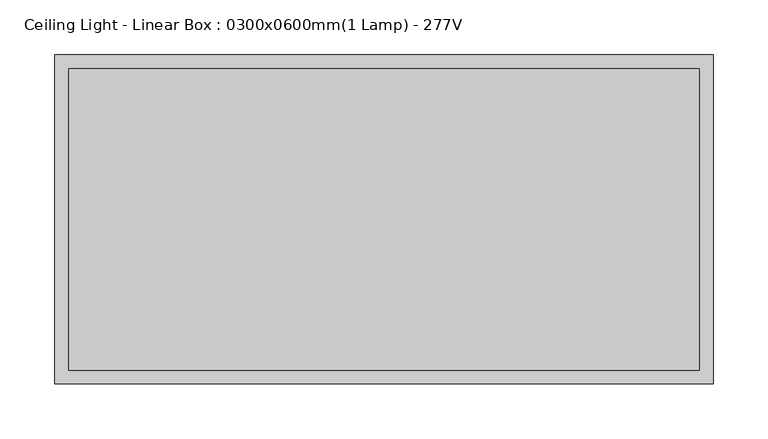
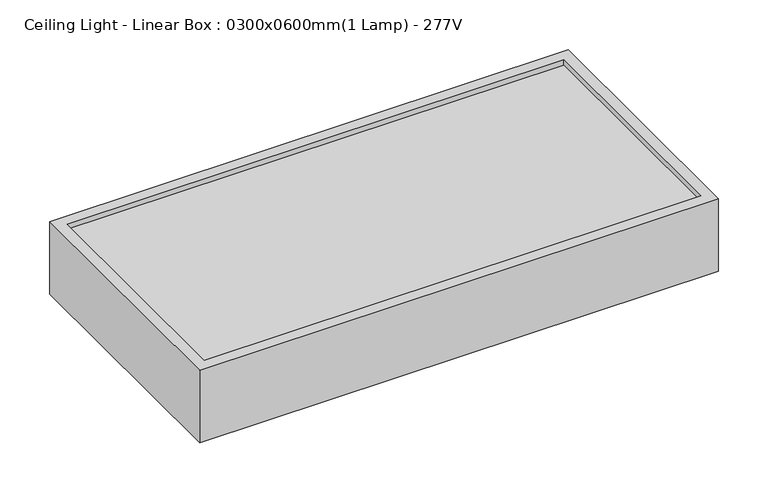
"""IFC4 building model written with IfcOpenShell, lengths in millimetres: light fixture geometry, Ceiling Light - Linear Box : 0300x0600mm(1 Lamp) - 277V."""

import ifcopenshell
import ifcopenshell.guid

model = None  # the IFC model being written
_history = None  # IfcOwnerHistory: only IFC2X3 demands one
_inside = {}  # id of a spatial element -> (the spatial element, [elements in it])
_under = {}  # id of a project, library or spatial element -> (it, [spatial elements below it])
_declared = {}  # id of a project -> (the project, [libraries it declares])
_typed = {}  # id of a type object -> (the type object, [elements of that type])
_made_of = {}  # id of a material, layer set ... -> (it, [elements and type objects made of it])


def new_model(schema):
    """Start an empty IFC model of exactly this schema.

    Asked for "IFC4X3", IfcOpenShell would pick the latest addendum, in which some entities
    have other attributes; the version numbers below select the first issue.
    IFC2X3 requires an IfcOwnerHistory on every rooted entity: one is made here for all.
    """
    global model, _history
    if schema == "IFC4X3":
        model = ifcopenshell.file(schema_version=(4, 3, 0, 0))
    else:
        model = ifcopenshell.file(schema=schema)
    _inside.clear()
    _under.clear()
    _declared.clear()
    _typed.clear()
    _made_of.clear()
    _history = None
    if model.schema == "IFC2X3":
        org = make("IfcOrganization", Name="unknown")
        user = make(
            "IfcPersonAndOrganization",
            ThePerson=make("IfcPerson", FamilyName="unknown"),
            TheOrganization=org,
        )
        app = make(
            "IfcApplication",
            ApplicationDeveloper=org,
            Version="unknown",
            ApplicationFullName="unknown",
            ApplicationIdentifier="unknown",
        )
        _history = make(
            "IfcOwnerHistory",
            OwningUser=user,
            OwningApplication=app,
            ChangeAction="ADDED",
            CreationDate=0,
        )
    return model


def make(cls, **values):
    """One entity of the class cls with the attributes given. An attribute that is None is left unset."""
    return model.create_entity(
        cls, **{name: value for name, value in values.items() if value is not None}
    )


def rooted(cls, **values):
    """An entity with a GlobalId (a new one), such as an element, a storey or a relation."""
    return make(cls, GlobalId=ifcopenshell.guid.new(), OwnerHistory=_history, **values)


def si_unit(unit_type, name, prefix=None):
    """IfcSIUnit, for example si_unit("LENGTHUNIT", "METRE", prefix="MILLI")."""
    return make("IfcSIUnit", UnitType=unit_type, Prefix=prefix, Name=name)


def assignment(units):
    """IfcUnitAssignment: the units of a project."""
    return None if units is None else make("IfcUnitAssignment", Units=units)


def point(xyz):
    """IfcCartesianPoint."""
    return None if xyz is None else make("IfcCartesianPoint", Coordinates=xyz)


def direction(xyz):
    """IfcDirection."""
    return None if xyz is None else make("IfcDirection", DirectionRatios=xyz)


def frame(location, z_axis=None, x_axis=None):
    """IfcAxis2Placement3D, a coordinate frame: its origin and axes. An axis left out is left unset."""
    return make(
        "IfcAxis2Placement3D",
        Location=point(location),
        Axis=direction(z_axis),
        RefDirection=direction(x_axis),
    )


def origin():
    """The frame at (0, 0, 0) with its axes left unset."""
    return frame((0.0, 0.0, 0.0))


def origin_with_axes():
    """The frame at (0, 0, 0) with the z axis (0, 0, 1) and the x axis (1, 0, 0) written out."""
    return frame((0.0, 0.0, 0.0), z_axis=(0.0, 0.0, 1.0), x_axis=(1.0, 0.0, 0.0))


def place(relative_to, where):
    """IfcLocalPlacement: puts the frame where relative to a parent placement (None: the world)."""
    return make(
        "IfcLocalPlacement", PlacementRelTo=relative_to, RelativePlacement=where
    )


def context(
    kind, dimensions, precision=None, world=None, true_north=None, identifier=None
):
    """IfcGeometricRepresentationContext, for example the 3D "Model" context."""
    return make(
        "IfcGeometricRepresentationContext",
        ContextIdentifier=identifier,
        ContextType=kind,
        CoordinateSpaceDimension=dimensions,
        Precision=precision,
        WorldCoordinateSystem=world,
        TrueNorth=true_north,
    )


def project(units=None, contexts=None):
    """IfcProject with its units and contexts."""
    return rooted(
        "IfcProject",
        Name="project",
        RepresentationContexts=contexts,
        UnitsInContext=assignment(units),
    )


def spatial(cls, under=None, at=None, **own):
    """A site, building, storey or space (cls), placed at a placement, below another one or the project."""
    s = rooted(cls, ObjectPlacement=at, **own)
    if under is not None:
        _under.setdefault(under.id(), (under, []))[1].append(s)
    return s


def polyline(points):
    """IfcPolyline through the points."""
    return make("IfcPolyline", Points=[point(p) for p in points])


def outline(outer, holes=None, kind="AREA"):
    """IfcArbitraryClosedProfileDef: a profile drawn as a closed curve; with holes, ...WithVoids."""
    if holes is None:
        return make("IfcArbitraryClosedProfileDef", ProfileType=kind, OuterCurve=outer)
    return make(
        "IfcArbitraryProfileDefWithVoids",
        ProfileType=kind,
        OuterCurve=outer,
        InnerCurves=holes,
    )


def extrude(swept, where, along, depth):
    """IfcExtrudedAreaSolid: the profile swept, set in the frame where, extruded along a direction by depth."""
    return make(
        "IfcExtrudedAreaSolid",
        SweptArea=swept,
        Position=where,
        ExtrudedDirection=direction(along),
        Depth=depth,
    )


def shape(context_of_items, identifier, shape_type, items):
    """IfcShapeRepresentation: the items that make up one representation, for example the "Body"."""
    return make(
        "IfcShapeRepresentation",
        ContextOfItems=context_of_items,
        RepresentationIdentifier=identifier,
        RepresentationType=shape_type,
        Items=items,
    )


def source(mapping_origin, context_of_items, identifier, shape_type, items):
    """IfcRepresentationMap: a shape defined once, which mapped items show again and again."""
    return make(
        "IfcRepresentationMap",
        MappingOrigin=mapping_origin,
        MappedRepresentation=shape(context_of_items, identifier, shape_type, items),
    )


def transform(
    local_origin,
    x_axis=None,
    y_axis=None,
    z_axis=None,
    scale=None,
    scale2=None,
    scale3=None,
    uniform=True,
):
    """IfcCartesianTransformationOperator3D, or its non-uniform kind. x_axis, y_axis, z_axis: its Axis1, 2, 3."""
    if uniform:
        return make(
            "IfcCartesianTransformationOperator3D",
            Axis1=direction(x_axis),
            Axis2=direction(y_axis),
            LocalOrigin=point(local_origin),
            Scale=scale,
            Axis3=direction(z_axis),
        )
    return make(
        "IfcCartesianTransformationOperator3DnonUniform",
        Axis1=direction(x_axis),
        Axis2=direction(y_axis),
        LocalOrigin=point(local_origin),
        Scale=scale,
        Axis3=direction(z_axis),
        Scale2=scale2,
        Scale3=scale3,
    )


def mapped(mapping_source, mapping_target):
    """IfcMappedItem: shows the shape of a source again, moved by a transform."""
    return make(
        "IfcMappedItem", MappingSource=mapping_source, MappingTarget=mapping_target
    )


def made_of(thing, what):
    """Note that an element or type object is made of a material, layer set ...; save() writes the relation."""
    if what is not None:
        _made_of.setdefault(what.id(), (what, []))[1].append(thing)
    return thing


def element(
    cls,
    number,
    at=None,
    inside=None,
    cuts=None,
    type_object=None,
    material=None,
    context=None,
    identifier="Body",
    shape_type=None,
    held_by="IfcProductDefinitionShape",
    body=None,
    shapes=None,
    **own,
):
    """One element of the class cls, such as IfcWall. Its Tag is "e" and its number.

    at: its placement. inside: the storey or other place that contains it. cuts: it is an
    opening in that element (IfcRelVoidsElement). A single representation is given by context,
    identifier, shape_type and body (its items); several are given by shapes. held_by: the class
    of the entity that holds the representations. save() writes the other relations.
    """
    e = rooted(cls, Tag="e%d" % number, ObjectPlacement=at, **own)
    if body is not None:
        shapes = [shape(context, identifier, shape_type, body)]
    if shapes is not None:
        e.Representation = make(held_by, Representations=shapes)
    if inside is not None:
        _inside.setdefault(inside.id(), (inside, []))[1].append(e)
    if cuts is not None:
        rooted(
            "IfcRelVoidsElement", RelatingBuildingElement=cuts, RelatedOpeningElement=e
        )
    if type_object is not None:
        _typed.setdefault(type_object.id(), (type_object, []))[1].append(e)
    return made_of(e, material)


def aggregate(whole, parts):
    """IfcRelAggregates: a whole, such as a stair, and the parts it consists of."""
    return rooted("IfcRelAggregates", RelatingObject=whole, RelatedObjects=parts)


def save(model, path):
    """Write the relations noted so far, then the file.

    IfcRelAggregates (storeys below a building ...), IfcRelContainedInSpatialStructure (elements
    in a storey), IfcRelDefinesByType, IfcRelAssociatesMaterial and IfcRelDeclares: one each for
    every whole, place, type object, material and project.
    """
    for whole, parts in _under.values():
        aggregate(whole, parts)
    for where, things in _inside.values():
        rooted(
            "IfcRelContainedInSpatialStructure",
            RelatedElements=things,
            RelatingStructure=where,
        )
    for kind, things in _typed.values():
        rooted("IfcRelDefinesByType", RelatedObjects=things, RelatingType=kind)
    for what, things in _made_of.values():
        rooted("IfcRelAssociatesMaterial", RelatedObjects=things, RelatingMaterial=what)
    for by, libraries in _declared.values():
        rooted("IfcRelDeclares", RelatingContext=by, RelatedDefinitions=libraries)
    model.write(path)


def ceiling_light_linear_box_0300x0600mm_1_lamp_277v_269d04dc(model_context):
    return source(origin(), model_context, "Body", "SweptSolid", [
        extrude(outline(polyline([(287.3, -12.7), (287.3, -287.3), (-287.3, -287.3), (-287.3, -12.7), (287.3, -12.7)])), frame((0.0, 0.0, 76.2), z_axis=(0.0, 0.0, 1.0), x_axis=(1.0, 0.0, 0.0)), (0.0, 0.0, 1.0), 6.35),
        extrude(outline(polyline([(300.0, 0.0), (300.0, -300.0), (-300.0, -300.0), (-300.0, 0.0), (300.0, 0.0)]), holes=[polyline([(287.3, -12.7), (-287.3, -12.7), (-287.3, -287.3), (287.3, -287.3), (287.3, -12.7)])]), origin_with_axes(), (0.0, 0.0, 1.0), 88.9),
    ])


if __name__ == "__main__":
    model = new_model("IFC4")
    model_context = context("Model", 3, world=origin())
    ifc_project = project(units=[si_unit("LENGTHUNIT", "METRE", prefix="MILLI")], contexts=[model_context])
    site = spatial("IfcSite", under=ifc_project)
    building = spatial("IfcBuilding", under=site)
    placement = place(None, origin())
    ceiling_light_linear_box_0300x0600mm_1_lamp_277v_shape = ceiling_light_linear_box_0300x0600mm_1_lamp_277v_269d04dc(model_context)
    element("IfcLightFixture", 1, ObjectType="Ceiling Light - Linear Box : 0300x0600mm(1 Lamp) - 277V", at=placement, inside=building, context=model_context, shape_type="MappedRepresentation", body=[
        mapped(ceiling_light_linear_box_0300x0600mm_1_lamp_277v_shape, transform((0.0, 0.0, 0.0), x_axis=(1.0, 0.0, 0.0), y_axis=(0.0, 1.0, 0.0), z_axis=(0.0, 0.0, 1.0))),
    ])
    save(model, "model.ifc")
